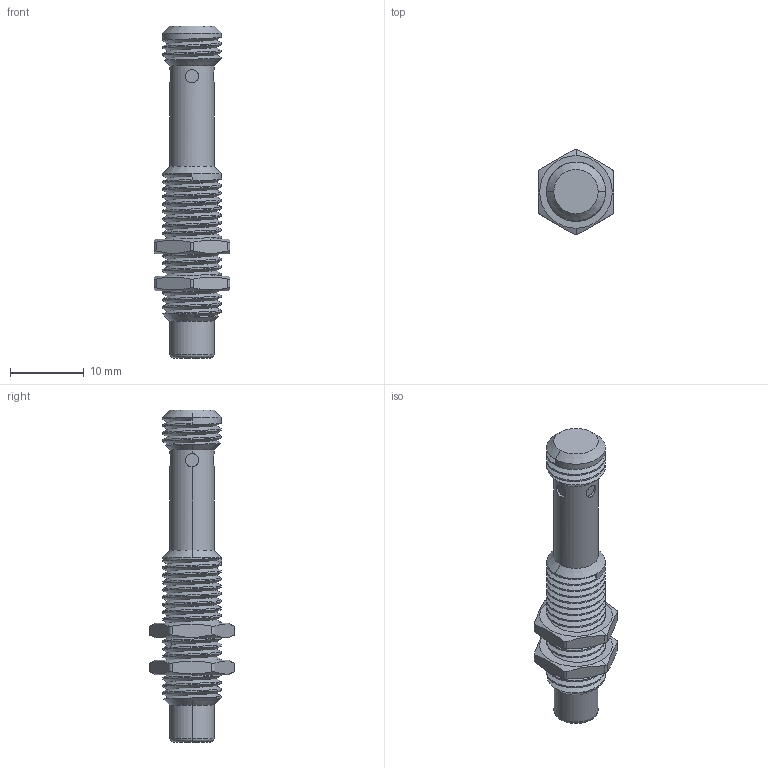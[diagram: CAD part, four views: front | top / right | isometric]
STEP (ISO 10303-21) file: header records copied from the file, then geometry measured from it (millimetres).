
FILE_DESCRIPTION((''),'2;1');
FILE_NAME('M8_DS845','2019-07-08T',('Administrator'),(''),'PRO/ENGINEER BY PARAMETRIC TECHNOLOGY CORPORATION, 2012130','PRO/ENGINEER BY PARAMETRIC TECHNOLOGY CORPORATION, 2012130','');
FILE_SCHEMA(('AUTOMOTIVE_DESIGN { 1 0 10303 214 1 1 1 1 }'));
Length unit declared in the file: millimetre
Products named in the file (1): M8_DS845
Bounding box: 10.22 x 11.65 x 45 mm (x, y, z)
Volume: 1836.2 mm3; surface area: 1900.4 mm2
Topology: 1 solids, 3 shells, 156 faces, 422 edges, 278 vertices
Faces by surface type: cylinder 73, plane 42, cone 24, bspline 15, torus 2
Entity records: 9557 total; most frequent: CARTESIAN_POINT 5958, ORIENTED_EDGE 830, DIRECTION 531, EDGE_CURVE 422, VERTEX_POINT 278, B_SPLINE_CURVE_WITH_KNOTS 229, AXIS2_PLACEMENT_3D 196, EDGE_LOOP 166
